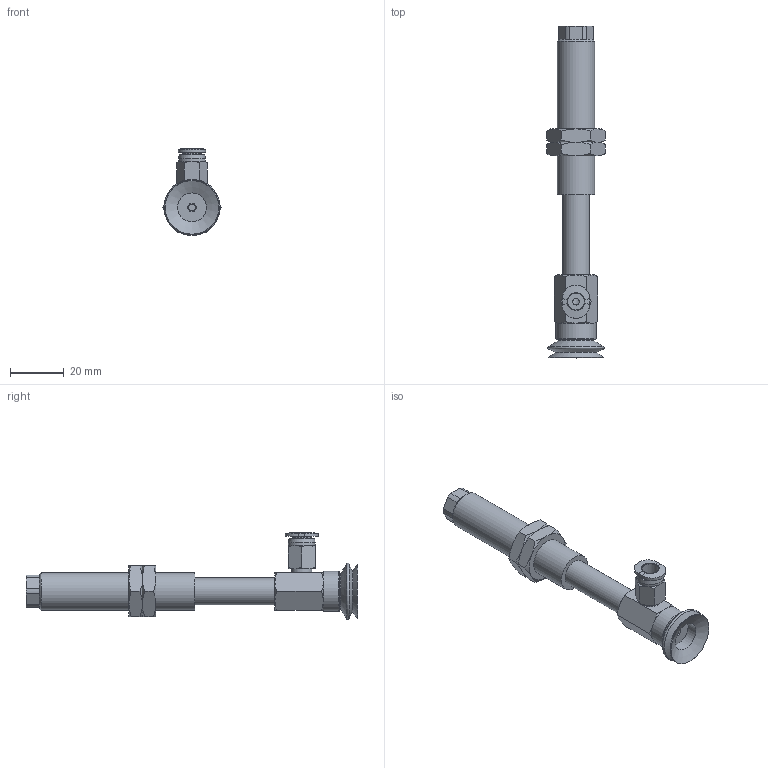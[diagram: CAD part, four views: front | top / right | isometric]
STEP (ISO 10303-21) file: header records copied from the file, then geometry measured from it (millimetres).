
FILE_DESCRIPTION(('STEP AP203'),'1');
FILE_NAME('-O.stp','2025-04-24T01:33:15',(' '),(' '),'Spatial InterOp 3D',' ',' ');
FILE_SCHEMA(('CONFIG_CONTROL_DESIGN'));
Length unit declared in the file: millimetre
Products named in the file (8): BNABPJYS-20-30-※-O; Adapter-20-NAPJ; CONNECTOR_S-20-30; NUT-NAPJ-20-30-s; NAPJTS-20-30-FBODY; NAPJTS-20-30-MBODY; BPJG-20-※; PC-C_06-M5
Assembly tree (8 placements, depth 2):
  BNABPJYS-20-30-※-O
    Adapter-20-NAPJ
    CONNECTOR_S-20-30
    NUT-NAPJ-20-30-s  x2
    NAPJTS-20-30-FBODY
    NAPJTS-20-30-MBODY
    BPJG-20-※
    PC-C_06-M5
Bounding box: 21.94 x 124 x 32.48 mm (x, y, z)
Volume: 17740.5 mm3; surface area: 15008.9 mm2
Topology: 7 solids, 10 shells, 194 faces, 412 edges, 251 vertices
Faces by surface type: plane 77, cone 70, cylinder 31, torus 9, bspline 4, revolution 3
Full cylindrical faces by diameter (mm): 2.5 x1, 3 x1, 4 x2, 4.134 x3, 4.6 x1, 5 x3, 7 x1, 7.4 x1, 8.2 x1, 10 x3, 10.8 x1, 11 x1, 13.188 x2, 14 x1, 15 x1
Entity records: 5158 total; most frequent: CARTESIAN_POINT 1413, DIRECTION 699, ORIENTED_EDGE 604, EDGE_CURVE 304, AXIS2_PLACEMENT_3D 302, EDGE_LOOP 250, VERTEX_POINT 214, FACE_OUTER_BOUND 142
